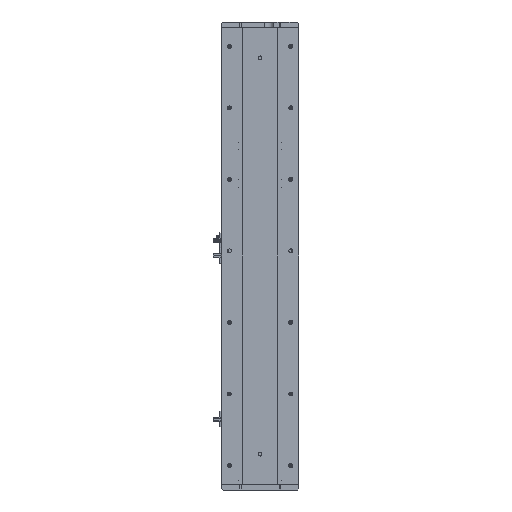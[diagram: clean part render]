
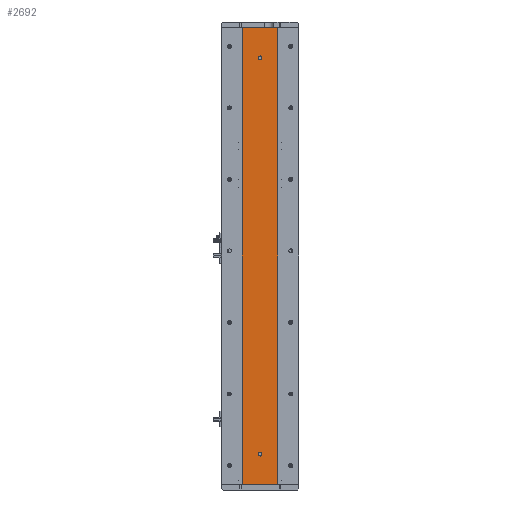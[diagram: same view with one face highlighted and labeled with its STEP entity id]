
A CAD part, left-side view. The second image highlights one B-rep face of the part: STEP entity #2692.
In plain terms, the highlighted planar face has unit normal (-1, 0, 0).
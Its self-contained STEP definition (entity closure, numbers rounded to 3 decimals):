
#237 = VERTEX_POINT ( 'NONE', #20783 ) ;
#708 = ORIENTED_EDGE ( 'NONE', *, *, #29563, .T. ) ;
#1302 = ORIENTED_EDGE ( 'NONE', *, *, #20079, .F. ) ;
#1465 = ORIENTED_EDGE ( 'NONE', *, *, #4171, .F. ) ;
#2060 = VERTEX_POINT ( 'NONE', #4024 ) ;
#2267 = CARTESIAN_POINT ( 'NONE',  ( -24.994, -29.785, 765. ) ) ;
#2692 = ADVANCED_FACE ( 'NONE', ( #18353, #4594, #31242 ), #10088, .F. ) ;
#3001 = VERTEX_POINT ( 'NONE', #9937 ) ;
#3080 = EDGE_LOOP ( 'NONE', ( #708, #4115, #6440, #21370 ) ) ;
#4024 = CARTESIAN_POINT ( 'NONE',  ( -24.994, 29.785, 0. ) ) ;
#4115 = ORIENTED_EDGE ( 'NONE', *, *, #24465, .F. ) ;
#4171 = EDGE_CURVE ( 'NONE', #28705, #7691, #13303, .T. ) ;
#4197 = CARTESIAN_POINT ( 'NONE',  ( -24.994, 29.785, 0. ) ) ;
#4364 = LINE ( 'NONE', #2267, #16526 ) ;
#4431 = CARTESIAN_POINT ( 'NONE',  ( -24.994, 0., 50. ) ) ;
#4594 = FACE_BOUND ( 'NONE', #23918, .T. ) ;
#4609 = DIRECTION ( 'NONE',  ( 0., -1., 0. ) ) ;
#4629 = DIRECTION ( 'NONE',  ( -1., 0., 0. ) ) ;
#4918 = AXIS2_PLACEMENT_3D ( 'NONE', #22674, #7139, #25234 ) ;
#5076 = AXIS2_PLACEMENT_3D ( 'NONE', #4431, #22520, #6998 ) ;
#5379 = ORIENTED_EDGE ( 'NONE', *, *, #21407, .F. ) ;
#5856 = AXIS2_PLACEMENT_3D ( 'NONE', #20116, #4629, #22735 ) ;
#6321 = LINE ( 'NONE', #20094, #26147 ) ;
#6440 = ORIENTED_EDGE ( 'NONE', *, *, #28512, .F. ) ;
#6998 = DIRECTION ( 'NONE',  ( 0., 0., 1. ) ) ;
#7139 = DIRECTION ( 'NONE',  ( -1., 0., 0. ) ) ;
#7538 = CARTESIAN_POINT ( 'NONE',  ( -24.994, 29.785, 765. ) ) ;
#7691 = VERTEX_POINT ( 'NONE', #18776 ) ;
#8330 = VERTEX_POINT ( 'NONE', #22563 ) ;
#9399 = VERTEX_POINT ( 'NONE', #12984 ) ;
#9937 = CARTESIAN_POINT ( 'NONE',  ( -24.994, 0., 712. ) ) ;
#10088 = PLANE ( 'NONE',  #27518 ) ;
#10215 = DIRECTION ( 'NONE',  ( 0., 0., -1. ) ) ;
#11042 = DIRECTION ( 'NONE',  ( -1., 0., 0. ) ) ;
#12786 = LINE ( 'NONE', #4197, #25677 ) ;
#12984 = CARTESIAN_POINT ( 'NONE',  ( -24.994, -29.785, 765. ) ) ;
#13303 = CIRCLE ( 'NONE', #5076, 3. ) ;
#16006 = LINE ( 'NONE', #17859, #22858 ) ;
#16386 = CIRCLE ( 'NONE', #4918, 3. ) ;
#16526 = VECTOR ( 'NONE', #20352, 1000. ) ;
#17859 = CARTESIAN_POINT ( 'NONE',  ( -24.994, 29.785, 765. ) ) ;
#18353 = FACE_BOUND ( 'NONE', #20666, .T. ) ;
#18776 = CARTESIAN_POINT ( 'NONE',  ( -24.994, 0., 53. ) ) ;
#20046 = CIRCLE ( 'NONE', #5856, 3. ) ;
#20079 = EDGE_CURVE ( 'NONE', #30457, #3001, #16386, .T. ) ;
#20094 = CARTESIAN_POINT ( 'NONE',  ( -24.994, 29.785, 765. ) ) ;
#20116 = CARTESIAN_POINT ( 'NONE',  ( -24.994, 0., 715. ) ) ;
#20352 = DIRECTION ( 'NONE',  ( 0., 0., -1. ) ) ;
#20666 = EDGE_LOOP ( 'NONE', ( #1302, #30026 ) ) ;
#20783 = CARTESIAN_POINT ( 'NONE',  ( -24.994, 29.785, 765. ) ) ;
#21370 = ORIENTED_EDGE ( 'NONE', *, *, #29719, .T. ) ;
#21407 = EDGE_CURVE ( 'NONE', #7691, #28705, #24509, .T. ) ;
#22520 = DIRECTION ( 'NONE',  ( -1., 0., 0. ) ) ;
#22563 = CARTESIAN_POINT ( 'NONE',  ( -24.994, -29.785, 0. ) ) ;
#22674 = CARTESIAN_POINT ( 'NONE',  ( -24.994, 0., 715. ) ) ;
#22735 = DIRECTION ( 'NONE',  ( 0., 0., 1. ) ) ;
#22858 = VECTOR ( 'NONE', #28191, 1000. ) ;
#23918 = EDGE_LOOP ( 'NONE', ( #5379, #1465 ) ) ;
#24465 = EDGE_CURVE ( 'NONE', #9399, #8330, #4364, .T. ) ;
#24509 = CIRCLE ( 'NONE', #30485, 3. ) ;
#24847 = DIRECTION ( 'NONE',  ( 0., -1., 0. ) ) ;
#25234 = DIRECTION ( 'NONE',  ( 0., 0., 1. ) ) ;
#25638 = DIRECTION ( 'NONE',  ( 1., 0., 0. ) ) ;
#25677 = VECTOR ( 'NONE', #24847, 1000. ) ;
#26147 = VECTOR ( 'NONE', #4609, 1000. ) ;
#26482 = CARTESIAN_POINT ( 'NONE',  ( -24.994, 0., 50. ) ) ;
#27483 = CARTESIAN_POINT ( 'NONE',  ( -24.994, 0., 718. ) ) ;
#27518 = AXIS2_PLACEMENT_3D ( 'NONE', #7538, #25638, #10215 ) ;
#28191 = DIRECTION ( 'NONE',  ( 0., 0., -1. ) ) ;
#28512 = EDGE_CURVE ( 'NONE', #237, #9399, #6321, .T. ) ;
#28617 = CARTESIAN_POINT ( 'NONE',  ( -24.994, 0., 47. ) ) ;
#28705 = VERTEX_POINT ( 'NONE', #28617 ) ;
#29088 = DIRECTION ( 'NONE',  ( 0., 0., 1. ) ) ;
#29563 = EDGE_CURVE ( 'NONE', #2060, #8330, #12786, .T. ) ;
#29621 = EDGE_CURVE ( 'NONE', #3001, #30457, #20046, .T. ) ;
#29719 = EDGE_CURVE ( 'NONE', #237, #2060, #16006, .T. ) ;
#30026 = ORIENTED_EDGE ( 'NONE', *, *, #29621, .F. ) ;
#30457 = VERTEX_POINT ( 'NONE', #27483 ) ;
#30485 = AXIS2_PLACEMENT_3D ( 'NONE', #26482, #11042, #29088 ) ;
#31242 = FACE_OUTER_BOUND ( 'NONE', #3080, .T. ) ;
